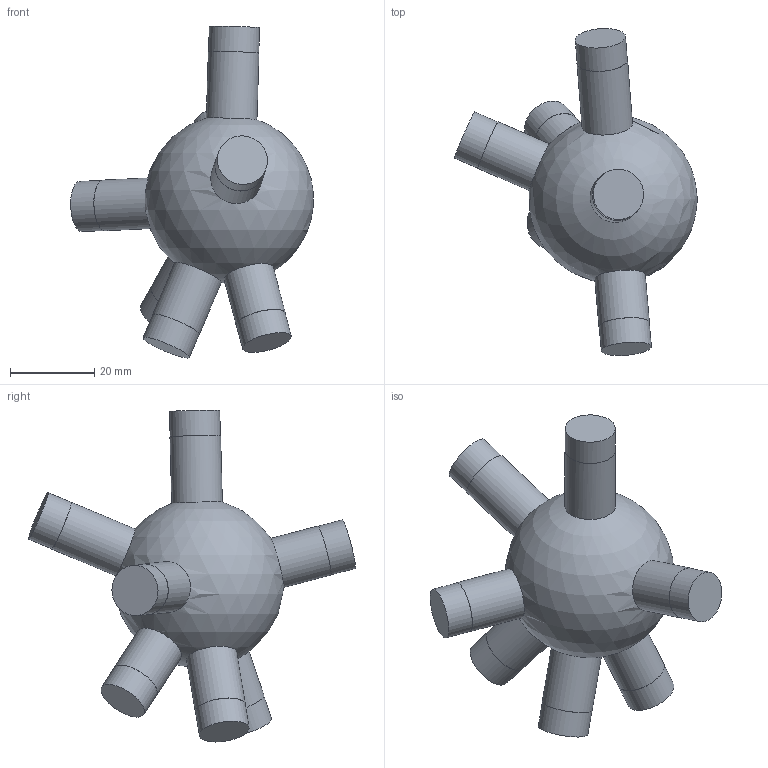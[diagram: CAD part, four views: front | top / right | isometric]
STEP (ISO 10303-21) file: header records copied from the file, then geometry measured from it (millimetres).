
FILE_DESCRIPTION(('Open CASCADE Model'),'2;1');
FILE_NAME('Open CASCADE Shape Model','2026-10-21T12:47:57',('Author'),( 'Open CASCADE'),'Open CASCADE STEP processor 7.9','Open CASCADE 7.9' ,'Unknown');
FILE_SCHEMA(('AUTOMOTIVE_DESIGN { 1 0 10303 214 1 1 1 1 }'));
Length unit declared in the file: millimetre
Products named in the file (1): Open CASCADE STEP translator 7.9 58
Bounding box: 57.44 x 77.46 x 78.62 mm (x, y, z)
Volume: 48438.1 mm3; surface area: 10119.4 mm2
Topology: 1 solids, 1 shells, 29 faces, 45 edges, 30 vertices
Faces by surface type: cylinder 14, plane 14, sphere 1
Full cylindrical faces by diameter (mm): 11.9 x7, 12 x7
Entity records: 1725 total; most frequent: CARTESIAN_POINT 687, DIRECTION 214, ORIENTED_EDGE 88, PCURVE 88, DEFINITIONAL_REPRESENTATION 88, LINE 73, VECTOR 73, AXIS2_PLACEMENT_3D 60
